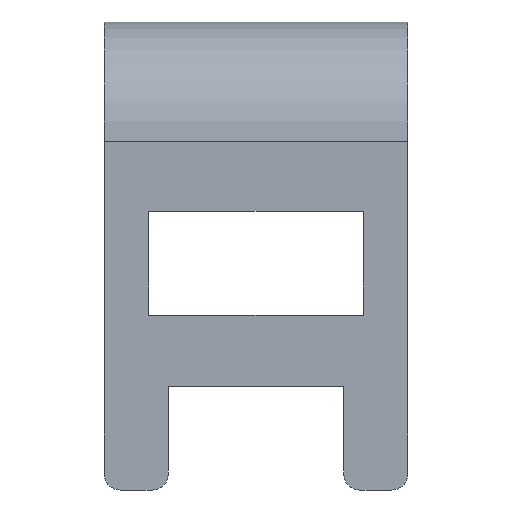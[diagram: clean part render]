
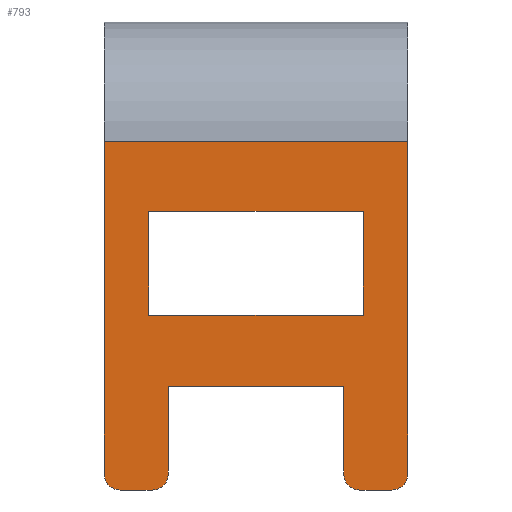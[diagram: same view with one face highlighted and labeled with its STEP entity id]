
A CAD part, front view. The second image highlights one B-rep face of the part: STEP entity #793.
In plain terms, the highlighted planar face has unit normal (0, -1, 0).
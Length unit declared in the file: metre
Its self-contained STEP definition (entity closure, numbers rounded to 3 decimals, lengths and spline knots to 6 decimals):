
#13=CIRCLE('',#1050,0.0002);
#15=CIRCLE('',#1053,0.0002);
#17=CIRCLE('',#1056,0.0002);
#19=CIRCLE('',#1059,0.0002);
#200=ORIENTED_EDGE('',*,*,#334,.T.);
#201=ORIENTED_EDGE('',*,*,#302,.T.);
#202=ORIENTED_EDGE('',*,*,#366,.F.);
#203=ORIENTED_EDGE('',*,*,#365,.F.);
#204=ORIENTED_EDGE('',*,*,#367,.T.);
#205=ORIENTED_EDGE('',*,*,#290,.T.);
#206=ORIENTED_EDGE('',*,*,#336,.T.);
#207=ORIENTED_EDGE('',*,*,#294,.T.);
#208=ORIENTED_EDGE('',*,*,#337,.T.);
#209=ORIENTED_EDGE('',*,*,#368,.T.);
#210=ORIENTED_EDGE('',*,*,#331,.T.);
#211=ORIENTED_EDGE('',*,*,#298,.T.);
#212=ORIENTED_EDGE('',*,*,#274,.F.);
#213=ORIENTED_EDGE('',*,*,#271,.F.);
#214=ORIENTED_EDGE('',*,*,#268,.F.);
#215=ORIENTED_EDGE('',*,*,#265,.F.);
#265=EDGE_CURVE('',#373,#374,#445,.T.);
#268=EDGE_CURVE('',#374,#376,#448,.T.);
#271=EDGE_CURVE('',#376,#378,#451,.T.);
#274=EDGE_CURVE('',#378,#373,#454,.T.);
#290=EDGE_CURVE('',#391,#390,#13,.T.);
#294=EDGE_CURVE('',#395,#394,#15,.T.);
#298=EDGE_CURVE('',#399,#398,#17,.T.);
#302=EDGE_CURVE('',#403,#402,#19,.T.);
#331=EDGE_CURVE('',#425,#399,#495,.T.);
#334=EDGE_CURVE('',#398,#403,#498,.T.);
#336=EDGE_CURVE('',#390,#395,#500,.T.);
#337=EDGE_CURVE('',#394,#426,#501,.T.);
#365=EDGE_CURVE('',#443,#442,#521,.T.);
#366=EDGE_CURVE('',#442,#402,#522,.T.);
#367=EDGE_CURVE('',#443,#391,#523,.T.);
#368=EDGE_CURVE('',#426,#425,#524,.T.);
#373=VERTEX_POINT('',#1316);
#374=VERTEX_POINT('',#1318);
#376=VERTEX_POINT('',#1324);
#378=VERTEX_POINT('',#1330);
#390=VERTEX_POINT('',#1366);
#391=VERTEX_POINT('',#1368);
#394=VERTEX_POINT('',#1375);
#395=VERTEX_POINT('',#1377);
#398=VERTEX_POINT('',#1384);
#399=VERTEX_POINT('',#1386);
#402=VERTEX_POINT('',#1393);
#403=VERTEX_POINT('',#1395);
#425=VERTEX_POINT('',#1455);
#426=VERTEX_POINT('',#1465);
#442=VERTEX_POINT('',#1515);
#443=VERTEX_POINT('',#1517);
#445=LINE('',#1317,#529);
#448=LINE('',#1323,#532);
#451=LINE('',#1329,#535);
#454=LINE('',#1335,#538);
#495=LINE('',#1454,#579);
#498=LINE('',#1459,#582);
#500=LINE('',#1462,#584);
#501=LINE('',#1464,#585);
#521=LINE('',#1518,#605);
#522=LINE('',#1520,#606);
#523=LINE('',#1521,#607);
#524=LINE('',#1522,#608);
#529=VECTOR('',#1107,1.);
#532=VECTOR('',#1112,1.);
#535=VECTOR('',#1117,1.);
#538=VECTOR('',#1122,1.);
#579=VECTOR('',#1229,1.);
#582=VECTOR('',#1234,1.);
#584=VECTOR('',#1238,1.);
#585=VECTOR('',#1241,1.);
#605=VECTOR('',#1293,1.);
#606=VECTOR('',#1296,1.);
#607=VECTOR('',#1297,1.);
#608=VECTOR('',#1298,1.);
#646=EDGE_LOOP('',(#200,#201,#202,#203,#204,#205,#206,#207,#208,#209,#210,
#211));
#647=EDGE_LOOP('',(#212,#213,#214,#215));
#688=FACE_BOUND('',#646,.T.);
#689=FACE_BOUND('',#647,.T.);
#716=PLANE('',#1096);
#793=ADVANCED_FACE('',(#688,#689),#716,.T.);
#1050=AXIS2_PLACEMENT_3D('',#1367,#1149,#1150);
#1053=AXIS2_PLACEMENT_3D('',#1376,#1157,#1158);
#1056=AXIS2_PLACEMENT_3D('',#1385,#1165,#1166);
#1059=AXIS2_PLACEMENT_3D('',#1394,#1173,#1174);
#1096=AXIS2_PLACEMENT_3D('',#1519,#1294,#1295);
#1107=DIRECTION('',(0.,0.,1.));
#1112=DIRECTION('',(-1.,0.,0.));
#1117=DIRECTION('',(0.,0.,-1.));
#1122=DIRECTION('',(1.,0.,0.));
#1149=DIRECTION('',(0.,-1.,0.));
#1150=DIRECTION('',(0.,0.,-1.));
#1157=DIRECTION('',(0.,-1.,0.));
#1158=DIRECTION('',(0.,0.,-1.));
#1165=DIRECTION('',(0.,-1.,0.));
#1166=DIRECTION('',(0.,0.,-1.));
#1173=DIRECTION('',(0.,-1.,0.));
#1174=DIRECTION('',(0.,0.,-1.));
#1229=DIRECTION('',(0.,0.,-1.));
#1234=DIRECTION('',(1.,0.,0.));
#1238=DIRECTION('',(1.,0.,0.));
#1241=DIRECTION('',(0.,0.,1.));
#1293=DIRECTION('',(1.,0.,0.));
#1294=DIRECTION('',(0.,-1.,0.));
#1295=DIRECTION('',(0.,0.,-1.));
#1296=DIRECTION('',(0.,0.,-1.));
#1297=DIRECTION('',(0.,0.,-1.));
#1298=DIRECTION('',(1.,0.,0.));
#1316=CARTESIAN_POINT('',(-0.141965,-0.039934,0.010488));
#1317=CARTESIAN_POINT('',(-0.141965,-0.039934,0.011788));
#1318=CARTESIAN_POINT('',(-0.141965,-0.039934,0.011788));
#1323=CARTESIAN_POINT('',(-0.143847,-0.039934,0.011788));
#1324=CARTESIAN_POINT('',(-0.144657,-0.039934,0.011788));
#1329=CARTESIAN_POINT('',(-0.144657,-0.039934,0.011788));
#1330=CARTESIAN_POINT('',(-0.144657,-0.039934,0.010488));
#1335=CARTESIAN_POINT('',(-0.144057,-0.039934,0.010488));
#1366=CARTESIAN_POINT('',(-0.145011,-0.039934,0.0083));
#1367=CARTESIAN_POINT('',(-0.145011,-0.039934,0.0085));
#1368=CARTESIAN_POINT('',(-0.145211,-0.039934,0.0085));
#1375=CARTESIAN_POINT('',(-0.144411,-0.039934,0.0085));
#1376=CARTESIAN_POINT('',(-0.144611,-0.039934,0.0085));
#1377=CARTESIAN_POINT('',(-0.144611,-0.039934,0.0083));
#1384=CARTESIAN_POINT('',(-0.142011,-0.039934,0.0083));
#1385=CARTESIAN_POINT('',(-0.142011,-0.039934,0.0085));
#1386=CARTESIAN_POINT('',(-0.142211,-0.039934,0.0085));
#1393=CARTESIAN_POINT('',(-0.141411,-0.039934,0.0085));
#1394=CARTESIAN_POINT('',(-0.141611,-0.039934,0.0085));
#1395=CARTESIAN_POINT('',(-0.141611,-0.039934,0.0083));
#1454=CARTESIAN_POINT('',(-0.142211,-0.039934,0.0096));
#1455=CARTESIAN_POINT('',(-0.142211,-0.039934,0.0096));
#1459=CARTESIAN_POINT('',(-0.141411,-0.039934,0.0083));
#1462=CARTESIAN_POINT('',(-0.145211,-0.039934,0.0083));
#1464=CARTESIAN_POINT('',(-0.144411,-0.039934,0.0096));
#1465=CARTESIAN_POINT('',(-0.144411,-0.039934,0.0096));
#1515=CARTESIAN_POINT('',(-0.141411,-0.039934,0.01266));
#1517=CARTESIAN_POINT('',(-0.145211,-0.039934,0.01266));
#1518=CARTESIAN_POINT('',(-0.145211,-0.039934,0.01266));
#1519=CARTESIAN_POINT('',(-0.145211,-0.039934,0.01266));
#1520=CARTESIAN_POINT('',(-0.141411,-0.039934,0.01266));
#1521=CARTESIAN_POINT('',(-0.145211,-0.039934,0.01266));
#1522=CARTESIAN_POINT('',(-0.145211,-0.039934,0.0096));
